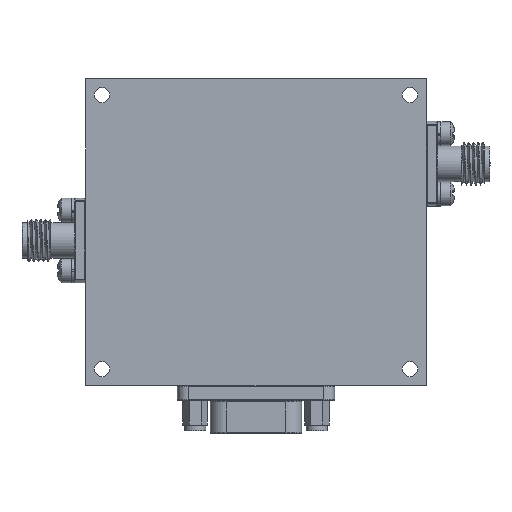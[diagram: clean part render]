
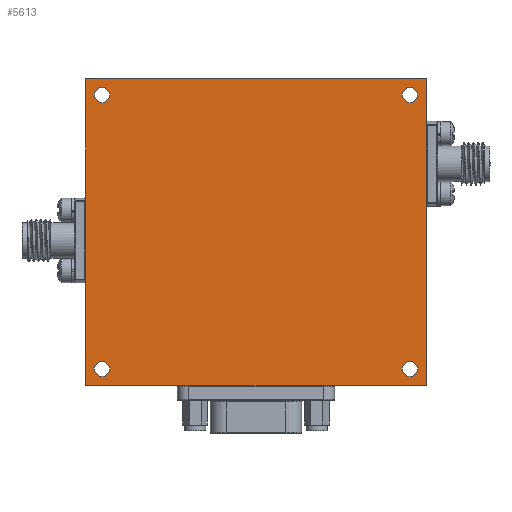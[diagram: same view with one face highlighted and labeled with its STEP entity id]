
A CAD part, front view. The second image highlights one B-rep face of the part: STEP entity #5613.
In plain terms, the highlighted planar face has unit normal (0, -1, 0).
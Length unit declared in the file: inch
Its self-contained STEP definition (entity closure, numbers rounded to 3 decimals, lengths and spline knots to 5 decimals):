
#423 = CARTESIAN_POINT ( 'NONE',  ( 0.905, -0.5, -0.805 ) ) ;
#530 = ORIENTED_EDGE ( 'NONE', *, *, #44087, .T. ) ;
#1999 = ORIENTED_EDGE ( 'NONE', *, *, #52513, .F. ) ;
#2534 = CARTESIAN_POINT ( 'NONE',  ( -0.905, -0.5, -0.7605 ) ) ;
#2723 = CARTESIAN_POINT ( 'NONE',  ( 1., -0.5, -0.9 ) ) ;
#5507 = DIRECTION ( 'NONE',  ( 0., 0., 1. ) ) ;
#5587 = CIRCLE ( 'NONE', #67828, 0.0445 ) ;
#5613 = ADVANCED_FACE ( 'NONE', ( #24903, #69943, #13236, #6624, #19447 ), #18354, .F. ) ;
#6593 = VERTEX_POINT ( 'NONE', #16892 ) ;
#6624 = FACE_BOUND ( 'NONE', #59081, .T. ) ;
#6853 = AXIS2_PLACEMENT_3D ( 'NONE', #53604, #53245, #13973 ) ;
#8378 = VERTEX_POINT ( 'NONE', #69510 ) ;
#8412 = LINE ( 'NONE', #15030, #17537 ) ;
#9756 = EDGE_CURVE ( 'NONE', #59804, #59804, #63929, .T. ) ;
#9845 = ORIENTED_EDGE ( 'NONE', *, *, #36329, .T. ) ;
#11129 = CARTESIAN_POINT ( 'NONE',  ( -1., -0.5, -0.9 ) ) ;
#11797 = ORIENTED_EDGE ( 'NONE', *, *, #52789, .F. ) ;
#12605 = CARTESIAN_POINT ( 'NONE',  ( -0.905, -0.5, -0.805 ) ) ;
#13236 = FACE_BOUND ( 'NONE', #61462, .T. ) ;
#13594 = DIRECTION ( 'NONE',  ( 0., 1., 0. ) ) ;
#13973 = DIRECTION ( 'NONE',  ( 0., 0., 1. ) ) ;
#15030 = CARTESIAN_POINT ( 'NONE',  ( 1., -0.5, -0.9 ) ) ;
#15133 = DIRECTION ( 'NONE',  ( 0., 0., 1. ) ) ;
#15661 = ORIENTED_EDGE ( 'NONE', *, *, #23446, .F. ) ;
#16892 = CARTESIAN_POINT ( 'NONE',  ( -1., -0.5, -0.9 ) ) ;
#17537 = VECTOR ( 'NONE', #64728, 39.37008 ) ;
#18354 = PLANE ( 'NONE',  #6853 ) ;
#19447 = FACE_OUTER_BOUND ( 'NONE', #65030, .T. ) ;
#19944 = CARTESIAN_POINT ( 'NONE',  ( -1., -0.5, -0.9 ) ) ;
#22565 = VECTOR ( 'NONE', #68979, 39.37008 ) ;
#23119 = DIRECTION ( 'NONE',  ( 0., 1., 0. ) ) ;
#23446 = EDGE_CURVE ( 'NONE', #31991, #6593, #52303, .T. ) ;
#24675 = CARTESIAN_POINT ( 'NONE',  ( -1., -0.5, 0.9 ) ) ;
#24903 = FACE_BOUND ( 'NONE', #26678, .T. ) ;
#26678 = EDGE_LOOP ( 'NONE', ( #530 ) ) ;
#31991 = VERTEX_POINT ( 'NONE', #2723 ) ;
#33304 = VECTOR ( 'NONE', #51153, 39.37008 ) ;
#33827 = CIRCLE ( 'NONE', #70342, 0.0445 ) ;
#35239 = ORIENTED_EDGE ( 'NONE', *, *, #36570, .T. ) ;
#36329 = EDGE_CURVE ( 'NONE', #69150, #69150, #5587, .T. ) ;
#36345 = CARTESIAN_POINT ( 'NONE',  ( -0.905, -0.5, 0.805 ) ) ;
#36570 = EDGE_CURVE ( 'NONE', #8378, #8378, #65538, .T. ) ;
#36623 = ORIENTED_EDGE ( 'NONE', *, *, #44876, .F. ) ;
#36997 = CARTESIAN_POINT ( 'NONE',  ( 0.905, -0.5, 0.8495 ) ) ;
#38193 = VERTEX_POINT ( 'NONE', #43888 ) ;
#39284 = DIRECTION ( 'NONE',  ( 0., 1., 0. ) ) ;
#43888 = CARTESIAN_POINT ( 'NONE',  ( 1., -0.5, 0.9 ) ) ;
#44087 = EDGE_CURVE ( 'NONE', #53543, #53543, #33827, .T. ) ;
#44876 = EDGE_CURVE ( 'NONE', #38193, #31991, #8412, .T. ) ;
#45610 = DIRECTION ( 'NONE',  ( 0., 0., 1. ) ) ;
#47176 = DIRECTION ( 'NONE',  ( 1., 0., 0. ) ) ;
#47386 = DIRECTION ( 'NONE',  ( 0., 0., 1. ) ) ;
#48593 = VECTOR ( 'NONE', #47176, 39.37008 ) ;
#49033 = EDGE_LOOP ( 'NONE', ( #35239 ) ) ;
#49259 = CARTESIAN_POINT ( 'NONE',  ( 0.905, -0.5, 0.805 ) ) ;
#51153 = DIRECTION ( 'NONE',  ( 0., 0., 1. ) ) ;
#52303 = LINE ( 'NONE', #19944, #22565 ) ;
#52513 = EDGE_CURVE ( 'NONE', #69484, #38193, #52672, .T. ) ;
#52672 = LINE ( 'NONE', #24675, #48593 ) ;
#52789 = EDGE_CURVE ( 'NONE', #6593, #69484, #61483, .T. ) ;
#53245 = DIRECTION ( 'NONE',  ( 0., 1., 0. ) ) ;
#53376 = ORIENTED_EDGE ( 'NONE', *, *, #9756, .T. ) ;
#53543 = VERTEX_POINT ( 'NONE', #36997 ) ;
#53604 = CARTESIAN_POINT ( 'NONE',  ( 0., -0.5, 0. ) ) ;
#54223 = CARTESIAN_POINT ( 'NONE',  ( 0.905, -0.5, -0.7605 ) ) ;
#57436 = DIRECTION ( 'NONE',  ( 0., 1., 0. ) ) ;
#59081 = EDGE_LOOP ( 'NONE', ( #53376 ) ) ;
#59804 = VERTEX_POINT ( 'NONE', #54223 ) ;
#61462 = EDGE_LOOP ( 'NONE', ( #9845 ) ) ;
#61483 = LINE ( 'NONE', #11129, #33304 ) ;
#63929 = CIRCLE ( 'NONE', #72249, 0.0445 ) ;
#64728 = DIRECTION ( 'NONE',  ( 0., 0., -1. ) ) ;
#65030 = EDGE_LOOP ( 'NONE', ( #11797, #15661, #36623, #1999 ) ) ;
#65538 = CIRCLE ( 'NONE', #70299, 0.0445 ) ;
#67828 = AXIS2_PLACEMENT_3D ( 'NONE', #12605, #57436, #15133 ) ;
#68709 = CARTESIAN_POINT ( 'NONE',  ( -1., -0.5, 0.9 ) ) ;
#68979 = DIRECTION ( 'NONE',  ( -1., 0., 0. ) ) ;
#69150 = VERTEX_POINT ( 'NONE', #2534 ) ;
#69484 = VERTEX_POINT ( 'NONE', #68709 ) ;
#69510 = CARTESIAN_POINT ( 'NONE',  ( -0.905, -0.5, 0.8495 ) ) ;
#69943 = FACE_BOUND ( 'NONE', #49033, .T. ) ;
#70299 = AXIS2_PLACEMENT_3D ( 'NONE', #36345, #13594, #47386 ) ;
#70342 = AXIS2_PLACEMENT_3D ( 'NONE', #49259, #39284, #5507 ) ;
#72249 = AXIS2_PLACEMENT_3D ( 'NONE', #423, #23119, #45610 ) ;
